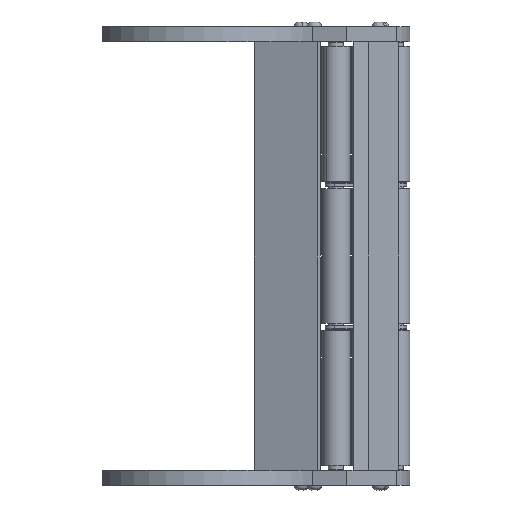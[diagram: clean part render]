
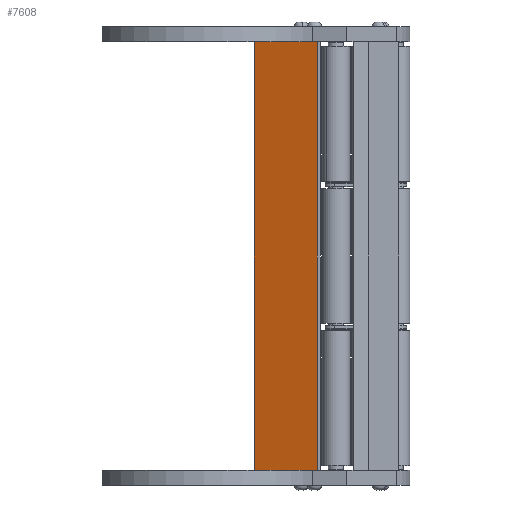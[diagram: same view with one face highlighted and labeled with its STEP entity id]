
A CAD part, front view. The second image highlights one B-rep face of the part: STEP entity #7608.
In plain terms, the highlighted planar face has unit normal (-0.342, -0.94, 0) as drawn and (0.342, -0.94, 0) by its records, which use the part's own axes.
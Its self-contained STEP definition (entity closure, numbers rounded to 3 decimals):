
#299 = VERTEX_POINT ( 'NONE', #5162 ) ;
#519 = EDGE_CURVE ( 'NONE', #1182, #16563, #7248, .T. ) ;
#1044 = CARTESIAN_POINT ( 'NONE',  ( 1.655, 0., 0. ) ) ;
#1182 = VERTEX_POINT ( 'NONE', #1044 ) ;
#2097 = EDGE_CURVE ( 'NONE', #12609, #1182, #2931, .T. ) ;
#2931 = LINE ( 'NONE', #3028, #6594 ) ;
#3028 = CARTESIAN_POINT ( 'NONE',  ( 1.655, 0., 227. ) ) ;
#3111 = CARTESIAN_POINT ( 'NONE',  ( 35., 12.137, 0. ) ) ;
#3960 = DIRECTION ( 'NONE',  ( 0.94, 0.342, 0. ) ) ;
#4854 = ORIENTED_EDGE ( 'NONE', *, *, #11544, .F. ) ;
#4859 = CARTESIAN_POINT ( 'NONE',  ( 1.655, 0., 227. ) ) ;
#5162 = CARTESIAN_POINT ( 'NONE',  ( 35., 12.137, 227. ) ) ;
#6493 = FACE_OUTER_BOUND ( 'NONE', #16478, .T. ) ;
#6594 = VECTOR ( 'NONE', #8640, 1000. ) ;
#6910 = CARTESIAN_POINT ( 'NONE',  ( 1.655, 0., 227. ) ) ;
#7248 = LINE ( 'NONE', #3111, #15631 ) ;
#7354 = EDGE_CURVE ( 'NONE', #299, #16563, #15855, .T. ) ;
#7608 = ADVANCED_FACE ( 'NONE', ( #6493 ), #15195, .F. ) ;
#8640 = DIRECTION ( 'NONE',  ( 0., 0., -1. ) ) ;
#9681 = LINE ( 'NONE', #6910, #13252 ) ;
#10644 = ORIENTED_EDGE ( 'NONE', *, *, #7354, .F. ) ;
#10991 = DIRECTION ( 'NONE',  ( -0.342, 0.94, 0. ) ) ;
#11544 = EDGE_CURVE ( 'NONE', #12609, #299, #9681, .T. ) ;
#12279 = CARTESIAN_POINT ( 'NONE',  ( 35., 12.137, 0. ) ) ;
#12609 = VERTEX_POINT ( 'NONE', #4859 ) ;
#13252 = VECTOR ( 'NONE', #3960, 1000. ) ;
#13381 = AXIS2_PLACEMENT_3D ( 'NONE', #13876, #10991, #17887 ) ;
#13617 = ORIENTED_EDGE ( 'NONE', *, *, #519, .T. ) ;
#13681 = ORIENTED_EDGE ( 'NONE', *, *, #2097, .T. ) ;
#13876 = CARTESIAN_POINT ( 'NONE',  ( 35., 12.137, 227. ) ) ;
#14094 = DIRECTION ( 'NONE',  ( 0., 0., -1. ) ) ;
#14199 = DIRECTION ( 'NONE',  ( 0.94, 0.342, 0. ) ) ;
#15195 = PLANE ( 'NONE',  #13381 ) ;
#15631 = VECTOR ( 'NONE', #14199, 1000. ) ;
#15680 = CARTESIAN_POINT ( 'NONE',  ( 35., 12.137, 227. ) ) ;
#15855 = LINE ( 'NONE', #15680, #17366 ) ;
#16478 = EDGE_LOOP ( 'NONE', ( #13617, #10644, #4854, #13681 ) ) ;
#16563 = VERTEX_POINT ( 'NONE', #12279 ) ;
#17366 = VECTOR ( 'NONE', #14094, 1000. ) ;
#17887 = DIRECTION ( 'NONE',  ( -0.94, -0.342, 0. ) ) ;
